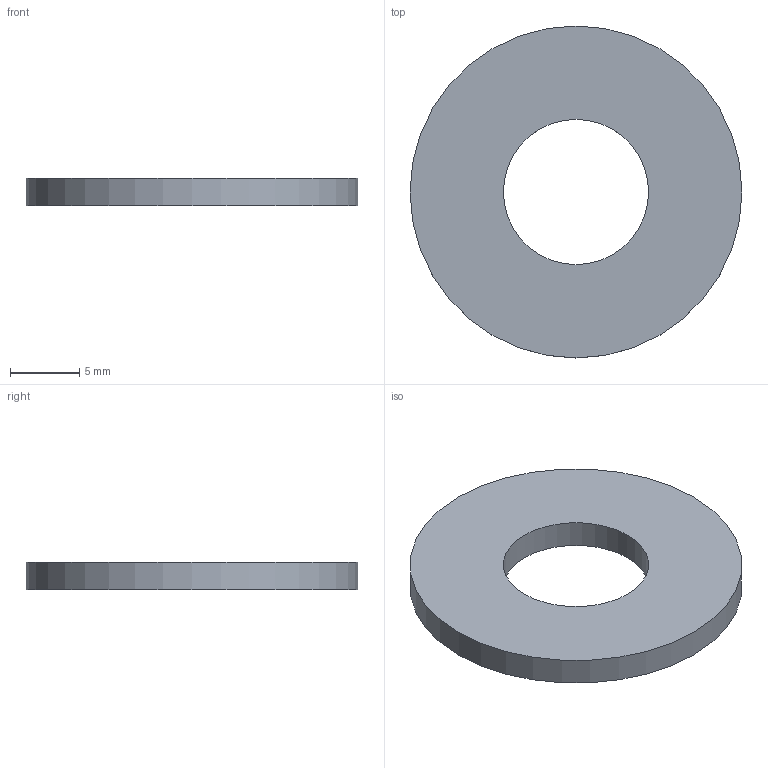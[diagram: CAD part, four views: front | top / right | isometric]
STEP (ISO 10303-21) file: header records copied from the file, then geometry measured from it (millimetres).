
FILE_DESCRIPTION(/* description */ (''),/* implementation_level */ '2;1');
FILE_NAME(/* name */ 'M10 Panel-Slot Washer - A2 Stainless Steel.step',/* time_stamp */ '2024-07-02T16:17:57+03:00',/* author */ (''),/* organization */ (''),/* preprocessor_version */ 'ST-DEVELOPER v20',/* originating_system */ 'Autodesk Translation Framework v13.14.0.145',/* authorisation */ '');
FILE_SCHEMA (('AUTOMOTIVE_DESIGN { 1 0 10303 214 3 1 1 }'));
Length unit declared in the file: millimetre
Products named in the file (1): M10 Panel/Slot Washer - A2 Stainless Steel
Bounding box: 24 x 24 x 2 mm (x, y, z)
Volume: 731.6 mm3; surface area: 948.4 mm2
Topology: 1 solids, 1 shells, 4 faces, 6 edges, 4 vertices
Faces by surface type: cylinder 2, plane 2
Full cylindrical faces by diameter (mm): 10.5 x1, 24 x1
Entity records: 131 total; most frequent: DIRECTION 20, CARTESIAN_POINT 15, ORIENTED_EDGE 12, AXIS2_PLACEMENT_3D 9, EDGE_LOOP 6, EDGE_CURVE 6, FACE_OUTER_BOUND 4, CIRCLE 4
